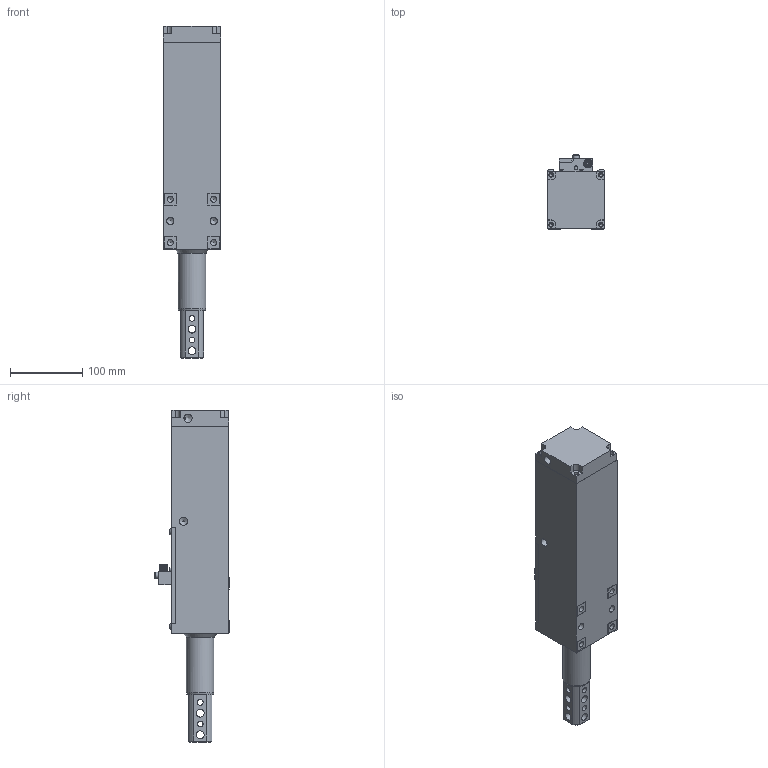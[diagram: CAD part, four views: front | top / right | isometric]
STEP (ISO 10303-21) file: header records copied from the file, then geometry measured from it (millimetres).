
FILE_DESCRIPTION(/* description */ (''),/* implementation_level */ '2;1');
FILE_NAME(/* name */ 'M:\cad\PRODUCT\LSA\LSA - 95\STEP\LSA-95\75mm Stroke\LSA-95 75mm Stroke - Extend.stp',/* time_stamp */ '2018-04-20T08:24:08-04:00',/* author */ ('Tyler'),/* organization */ (''),/* preprocessor_version */ 'ST-DEVELOPER v17',/* originating_system */ 'Autodesk Inventor 2018',/* authorisation */ '');
FILE_SCHEMA (('AUTOMOTIVE_DESIGN { 1 0 10303 214 3 1 1 }'));
Length unit declared in the file: inch
Products named in the file (1): LSA-95 75_100 Stroke - Stripped for STEP_75 Extend
Bounding box: 80.01 x 102.75 x 460.07 mm (x, y, z)
Volume: 1467816.9 mm3; surface area: 255348.7 mm2
Topology: 2 solids, 2 shells, 485 faces, 1350 edges, 904 vertices
Faces by surface type: plane 229, cylinder 167, cone 77, torus 9, sphere 3
Full cylindrical faces by diameter (mm): 1 x8, 1.191 x1, 1.981 x2, 2 x2, 2.383 x2, 2.464 x1, 3.175 x2, 3.264 x6, 3.302 x1, 4.928 x4, 5 x2, 5.3 x4, 5.5 x2, 6.35 x3, 6.5 x4, 8.019 x8, 8.3 x1, 8.382 x4, 8.5 x1, 9.5 x3, 9.652 x2, 10.02 x2, 10.16 x1, 10.312 x1, 10.5 x1, 10.998 x8, 11.455 x5, 11.76 x1, 11.811 x1, 12 x1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
Entity records: 16898 total; most frequent: CARTESIAN_POINT 3422, DIRECTION 2793, ORIENTED_EDGE 2660, EDGE_CURVE 1330, AXIS2_PLACEMENT_3D 1064, VERTEX_POINT 904, LINE 665, VECTOR 665
